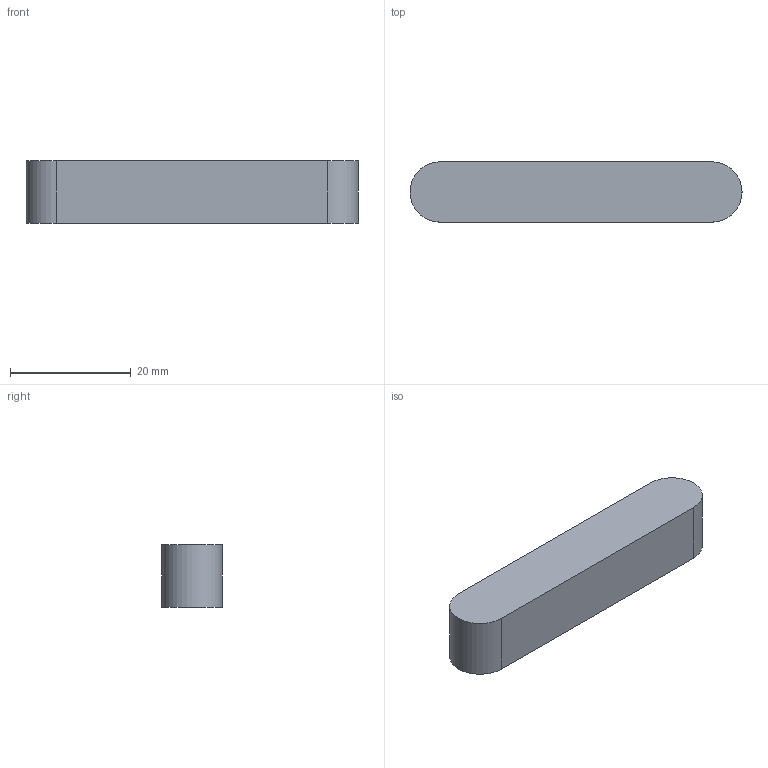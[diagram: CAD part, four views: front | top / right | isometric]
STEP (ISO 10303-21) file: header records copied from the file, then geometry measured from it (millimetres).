
FILE_DESCRIPTION(('Open CASCADE Model'),'2;1');
FILE_NAME('Open CASCADE Shape Model','2026-10-21T18:54:42',('Author'),( 'Open CASCADE'),'Open CASCADE STEP processor 8.0','build123d', 'Unknown');
FILE_SCHEMA(('AUTOMOTIVE_DESIGN { 1 0 10303 214 1 1 1 1 }'));
Length unit declared in the file: millimetre
Products named in the file (1): COMPOUND
Bounding box: 55 x 10 x 10.3 mm (x, y, z)
Volume: 5444 mm3; surface area: 2307.7 mm2
Topology: 1 solids, 1 shells, 6 faces, 12 edges, 8 vertices
Faces by surface type: plane 4, cylinder 2
Entity records: 338 total; most frequent: CARTESIAN_POINT 75, DIRECTION 50, LINE 28, VECTOR 28, ORIENTED_EDGE 24, PCURVE 24, DEFINITIONAL_REPRESENTATION 24, EDGE_CURVE 12
